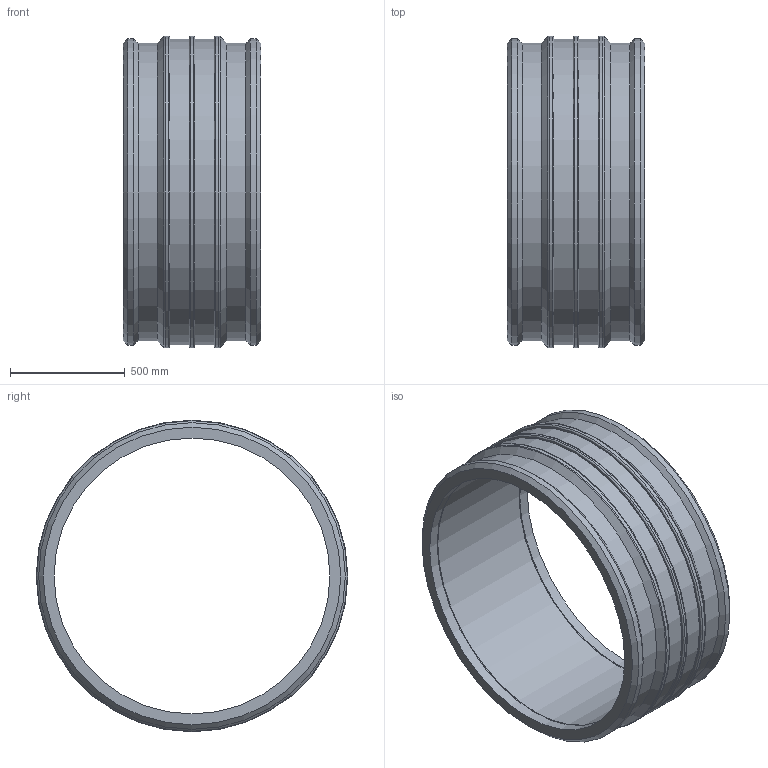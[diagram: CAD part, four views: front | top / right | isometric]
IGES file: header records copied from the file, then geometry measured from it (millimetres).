
Global section: file name: 4601031200.ipt; native system: Autodesk Inventor 2019; preprocessor: unknown; author: KIM; date: 20201209.143840; units: millimetre
Bounding box: 600 x 1355 x 1355 mm (x, y, z)
Volume: 142563571.7 mm3; surface area: 5544112.6 mm2
Topology: 1 solids, 1 shells, 48 faces, 106 edges, 70 vertices
Faces by surface type: cylinder 15, plane 14, revolution 13, cone 6
Full cylindrical faces by diameter (mm): 4 x2, 1293.98 x2, 1327.9 x2, 1334 x2, 1355 x3
